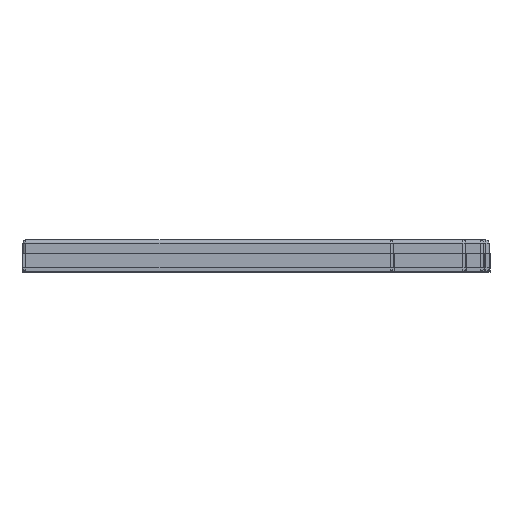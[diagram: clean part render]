
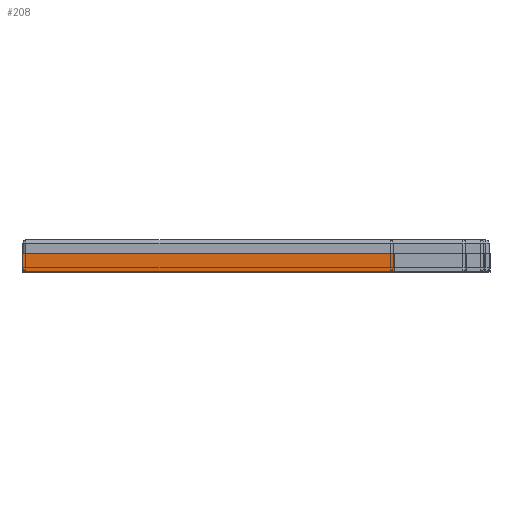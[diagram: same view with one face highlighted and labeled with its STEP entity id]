
A CAD part, left-side view. The second image highlights one B-rep face of the part: STEP entity #208.
In plain terms, the highlighted planar face has unit normal (-1, 0, 0).
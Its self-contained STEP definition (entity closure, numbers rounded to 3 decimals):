
#208=ADVANCED_FACE('',(#372),#2144,.T.);
#372=FACE_OUTER_BOUND('',#540,.T.);
#540=EDGE_LOOP('',(#1168,#1169,#1170,#1171));
#1168=ORIENTED_EDGE('',*,*,#1480,.T.);
#1169=ORIENTED_EDGE('',*,*,#1500,.F.);
#1170=ORIENTED_EDGE('',*,*,#1472,.T.);
#1171=ORIENTED_EDGE('',*,*,#1502,.F.);
#1472=EDGE_CURVE('',#1980,#1981,#1792,.T.);
#1480=EDGE_CURVE('',#1988,#1989,#1800,.T.);
#1500=EDGE_CURVE('',#1980,#1989,#1820,.T.);
#1502=EDGE_CURVE('',#1988,#1981,#1822,.T.);
#1792=B_SPLINE_CURVE_WITH_KNOTS('',1,(#4264,#4265),.UNSPECIFIED.,.F.,.F.,
(2,2),(-1392.,-795.),.UNSPECIFIED.);
#1800=B_SPLINE_CURVE_WITH_KNOTS('',1,(#4280,#4281),.UNSPECIFIED.,.F.,.F.,
(2,2),(0.,597.),.UNSPECIFIED.);
#1820=B_SPLINE_CURVE_WITH_KNOTS('',1,(#4360,#4361),.UNSPECIFIED.,.F.,.F.,
(2,2),(0.,30.),.UNSPECIFIED.);
#1822=B_SPLINE_CURVE_WITH_KNOTS('',1,(#4364,#4365),.UNSPECIFIED.,.F.,.F.,
(2,2),(0.,30.),.UNSPECIFIED.);
#1980=VERTEX_POINT('',#4244);
#1981=VERTEX_POINT('',#4245);
#1988=VERTEX_POINT('',#4252);
#1989=VERTEX_POINT('',#4253);
#2144=PLANE('',#2316);
#2316=AXIS2_PLACEMENT_3D('',#4240,#2403,$);
#2403=DIRECTION('',(-1.,0.,0.));
#4240=CARTESIAN_POINT('',(491.533,898.317,0.));
#4244=CARTESIAN_POINT('',(491.533,301.317,30.));
#4245=CARTESIAN_POINT('',(491.533,898.317,30.));
#4252=CARTESIAN_POINT('',(491.533,898.317,0.));
#4253=CARTESIAN_POINT('',(491.533,301.317,0.));
#4264=CARTESIAN_POINT('',(491.533,301.317,30.));
#4265=CARTESIAN_POINT('',(491.533,898.317,30.));
#4280=CARTESIAN_POINT('',(491.533,898.317,0.));
#4281=CARTESIAN_POINT('',(491.533,301.317,0.));
#4360=CARTESIAN_POINT('',(491.533,301.317,30.));
#4361=CARTESIAN_POINT('',(491.533,301.317,0.));
#4364=CARTESIAN_POINT('',(491.533,898.317,0.));
#4365=CARTESIAN_POINT('',(491.533,898.317,30.));
